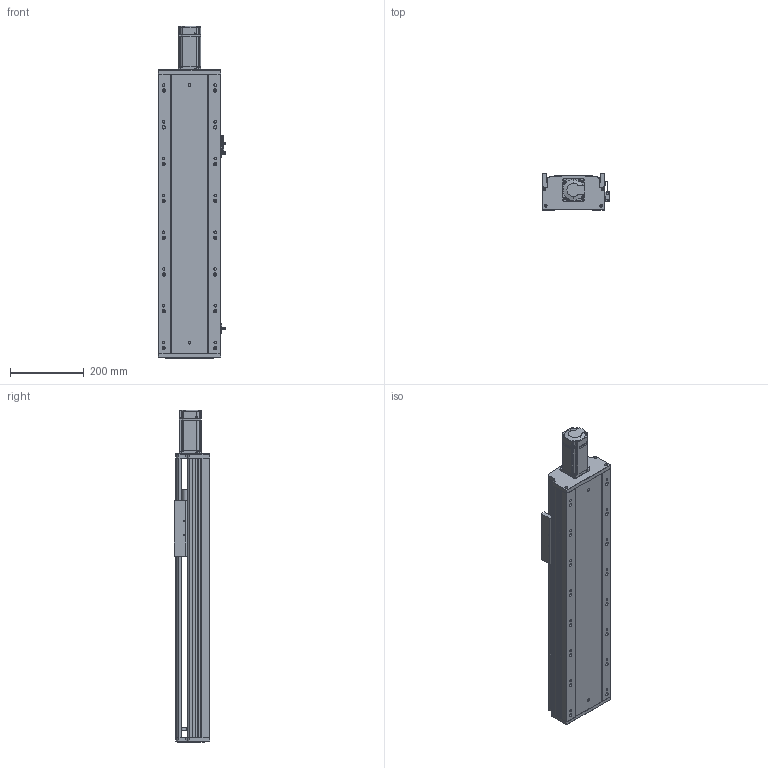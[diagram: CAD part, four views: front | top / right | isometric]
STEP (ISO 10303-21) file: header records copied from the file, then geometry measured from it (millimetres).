
FILE_DESCRIPTION (( 'STEP AP203' ), '1' );
FILE_NAME ('RY170-L2020-300-MK.SLDASM_450.step', '2021-02-20T03:50:36', ( '盈信电脑' ), ( '东莞市道滘镇水果街19号' ), 'SwSTEP 2.0', 'SolidWorks 2012', '' );
FILE_SCHEMA (( 'CONFIG_CONTROL_DESIGN' ));
Length unit declared in the file: millimetre
Products named in the file (12): 滅袉蝶18-10; 滅袉蝶18-28; RY170-L2020-300-MK.SLDASM_450; 覜茼ん672; RY170外置感应片(200共用）; RY170ヶ醱裔啣; 15; RY170綴裔啣; RY170臏賑輸20佪裝蹟譫; 侂狟400W侜督萇儂; RY170-300倰第菁釱-MK_450; RY170-300倰第裔啣-MK_450
Assembly tree (13 placements, depth 3):
  RY170-L2020-300-MK.SLDASM_450
    RY170-300倰第菁釱-MK_450
    RY170-300倰第裔啣-MK_450
    RY170臏賑輸20佪裝蹟譫
    侂狟400W侜督萇儂
      15
    RY170綴裔啣
    覜茼ん672  x3
    RY170外置感应片(200共用）
    RY170ヶ醱裔啣
    滅袉蝶18-28
    滅袉蝶18-10
Bounding box: 183.7 x 97 x 902.5 mm (x, y, z)
Volume: 4406643.5 mm3; surface area: 1362229 mm2
Topology: 12 solids, 12 shells, 2116 faces, 6088 edges, 3950 vertices
Faces by surface type: plane 1166, cylinder 770, cone 151, bspline 29
Entity records: 67593 total; most frequent: CARTESIAN_POINT 15109, ORIENTED_EDGE 11012, DIRECTION 10361, EDGE_CURVE 5506, VERTEX_POINT 3630, VECTOR 3545, LINE 3545, AXIS2_PLACEMENT_3D 3408
